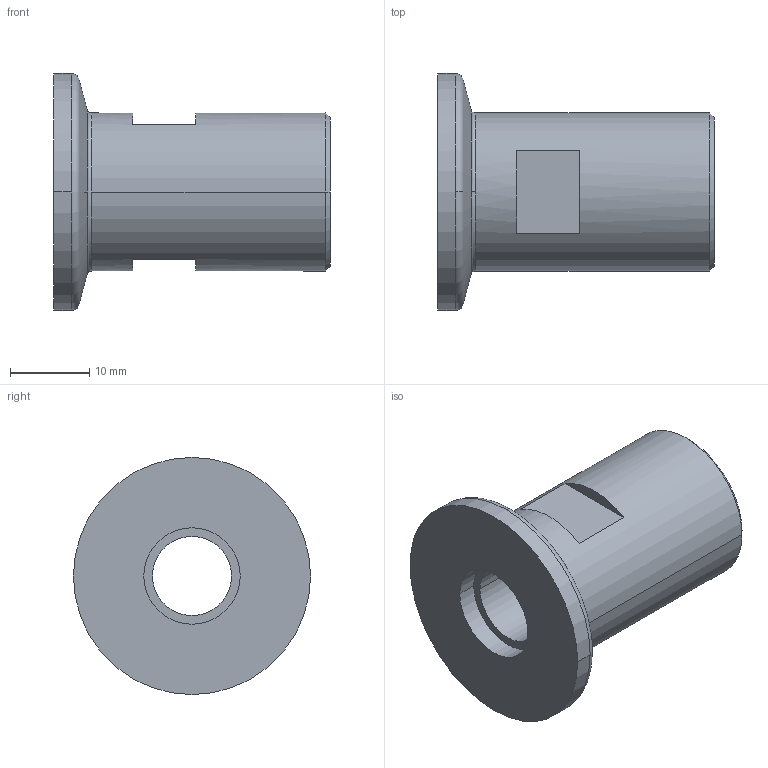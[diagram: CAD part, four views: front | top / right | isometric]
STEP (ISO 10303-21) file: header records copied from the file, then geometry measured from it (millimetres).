
FILE_DESCRIPTION((''),'2;1');
FILE_NAME('W:\211-376.stp','2003-10-10T15:41:32',('KAA'),(''),'Autodesk Inventor (R) 6.0','Autodesk Inventor (R) 6.0','');
FILE_SCHEMA(('CONFIG_CONTROL_DESIGN'));
Length unit declared in the file: millimetre
Products named in the file (1): 211-376
Bounding box: 35 x 30 x 30 mm (x, y, z)
Volume: 8271.1 mm3; surface area: 5163.2 mm2
Topology: 1 solids, 2 shells, 36 faces, 80 edges, 52 vertices
Faces by surface type: cylinder 14, plane 12, cone 6, torus 2, bspline 2
Entity records: 1205 total; most frequent: CARTESIAN_POINT 257, DIRECTION 202, ORIENTED_EDGE 160, AXIS2_PLACEMENT_3D 87, EDGE_CURVE 80, VERTEX_POINT 52, CIRCLE 52, EDGE_LOOP 44
